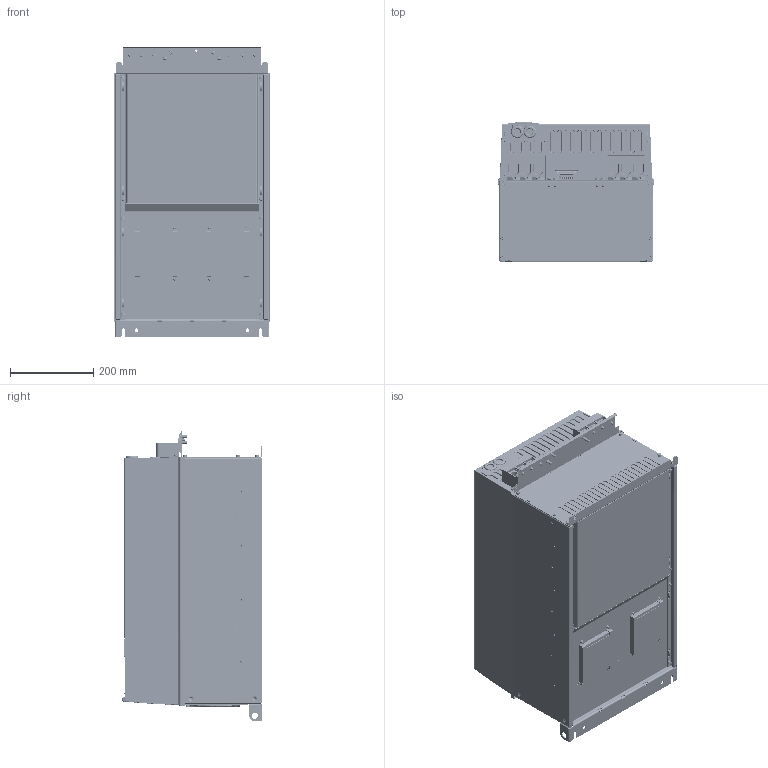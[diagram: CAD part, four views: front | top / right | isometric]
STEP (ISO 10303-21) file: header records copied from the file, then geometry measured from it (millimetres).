
FILE_DESCRIPTION (( 'STEP AP203' ), '1' );
FILE_NAME ('庉俵.8-ip20_0.STEP', '2016-01-18T14:16:58', ( '' ), ( '' ), 'SwSTEP 2.0', 'SolidWorks 2015', '' );
FILE_SCHEMA (( 'CONFIG_CONTROL_DESIGN' ));
Products named in the file (1): 庉俵.8-ip20_0
Bounding box: 375 x 335.09 x 697.5 mm (x, y, z)
Surface area: 1480959.6 mm2
Topology: 32 solids, 33 shells, 5118 faces, 14330 edges, 9428 vertices
Faces by surface type: plane 2008, cylinder 1870, bspline 839, cone 401
Entity records: 267249 total; most frequent: CARTESIAN_POINT 150658, ORIENTED_EDGE 28372, DIRECTION 17799, EDGE_CURVE 14186, VERTEX_POINT 9428, LINE 6211, VECTOR 6211, B_SPLINE_CURVE_WITH_KNOTS 6068
